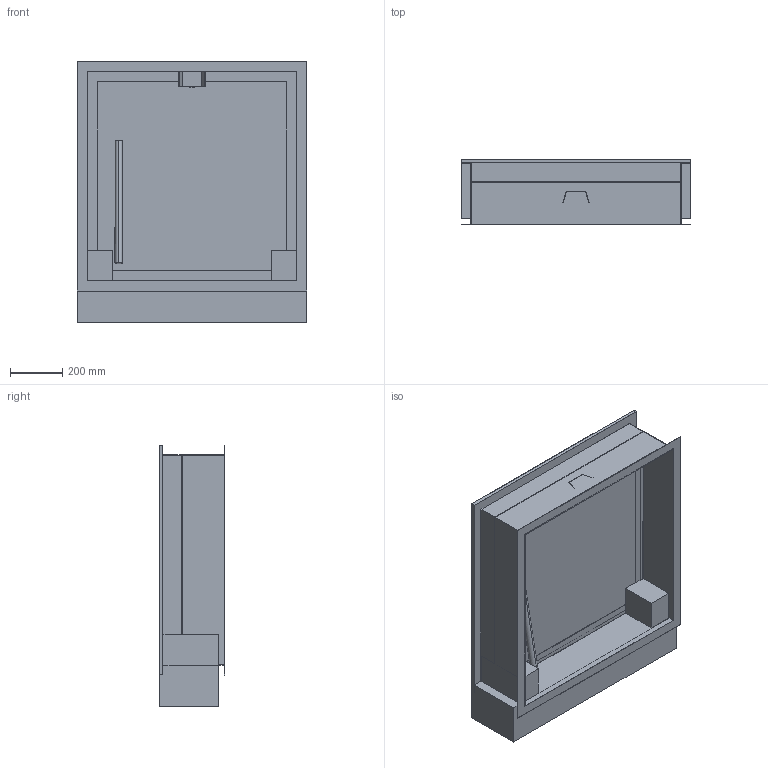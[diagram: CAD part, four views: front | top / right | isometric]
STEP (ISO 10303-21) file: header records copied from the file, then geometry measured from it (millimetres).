
FILE_DESCRIPTION((''),'2;1');
FILE_NAME('51639710','2021-06-11T08:15:43',('slc'),('HUBER SE'),'CREO PARAMETRIC BY PTC INC, 2019224','CREO PARAMETRIC BY PTC INC, 2019224','');
FILE_SCHEMA(('AUTOMOTIVE_DESIGN { 1 0 10303 214 1 1 1 1 }'));
Length unit declared in the file: millimetre
Products named in the file (1): 51639710
Bounding box: 878 x 250 x 1000 mm (x, y, z)
Volume: 89109661.5 mm3; surface area: 4292179.1 mm2
Topology: 1 solids, 1 shells, 88 faces, 231 edges, 152 vertices
Faces by surface type: plane 79, cylinder 9
Entity records: 3350 total; most frequent: CARTESIAN_POINT 507, ORIENTED_EDGE 462, DIRECTION 427, EDGE_CURVE 231, VECTOR 207, LINE 207, VERTEX_POINT 152, AXIS2_PLACEMENT_3D 110
